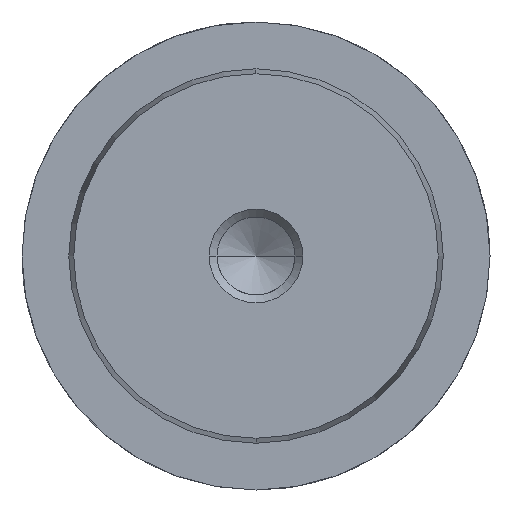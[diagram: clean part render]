
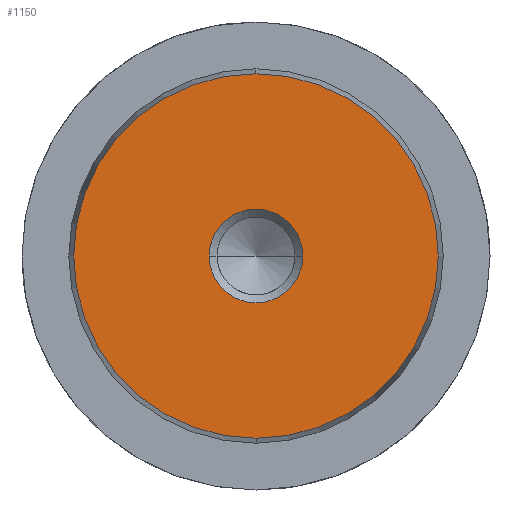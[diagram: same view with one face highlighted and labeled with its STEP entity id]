
A CAD part, left-side view. The second image highlights one B-rep face of the part: STEP entity #1150.
In plain terms, the highlighted planar face has unit normal (-1, 0, 0).
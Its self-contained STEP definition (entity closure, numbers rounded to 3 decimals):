
#1064=CARTESIAN_POINT('Vertex',(0.,0.,-15.578)) ;
#1067=CARTESIAN_POINT('Axis2P3D Location',(0.,0.,0.)) ;
#1071=CARTESIAN_POINT('Vertex',(0.,15.578,0.)) ;
#1074=CARTESIAN_POINT('Axis2P3D Location',(0.,0.,0.)) ;
#1078=CARTESIAN_POINT('Vertex',(0.,0.,15.578)) ;
#1100=CARTESIAN_POINT('Axis2P3D Location',(0.,0.,0.)) ;
#1104=CARTESIAN_POINT('Vertex',(0.,-15.578,0.)) ;
#1107=CARTESIAN_POINT('Axis2P3D Location',(0.,0.,0.)) ;
#1121=CARTESIAN_POINT('Axis2P3D Location',(0.,0.,0.)) ;
#1132=CARTESIAN_POINT('Axis2P3D Location',(0.,0.,0.)) ;
#1136=CARTESIAN_POINT('Vertex',(0.,4.,0.)) ;
#1138=CARTESIAN_POINT('Vertex',(0.,-4.,0.)) ;
#1141=CARTESIAN_POINT('Axis2P3D Location',(0.,0.,0.)) ;
#1068=DIRECTION('Axis2P3D Direction',(1.,0.,-0.)) ;
#1075=DIRECTION('Axis2P3D Direction',(1.,0.,-0.)) ;
#1101=DIRECTION('Axis2P3D Direction',(1.,0.,-0.)) ;
#1108=DIRECTION('Axis2P3D Direction',(1.,0.,-0.)) ;
#1122=DIRECTION('Axis2P3D Direction',(1.,0.,-0.)) ;
#1123=DIRECTION('Axis2P3D XDirection',(-0.,0.,-1.)) ;
#1133=DIRECTION('Axis2P3D Direction',(1.,0.,-0.)) ;
#1142=DIRECTION('Axis2P3D Direction',(1.,0.,-0.)) ;
#1069=AXIS2_PLACEMENT_3D('Circle Axis2P3D',#1067,#1068,$) ;
#1076=AXIS2_PLACEMENT_3D('Circle Axis2P3D',#1074,#1075,$) ;
#1102=AXIS2_PLACEMENT_3D('Circle Axis2P3D',#1100,#1101,$) ;
#1109=AXIS2_PLACEMENT_3D('Circle Axis2P3D',#1107,#1108,$) ;
#1124=AXIS2_PLACEMENT_3D('Plane Axis2P3D',#1121,#1122,#1123) ;
#1134=AXIS2_PLACEMENT_3D('Circle Axis2P3D',#1132,#1133,$) ;
#1143=AXIS2_PLACEMENT_3D('Circle Axis2P3D',#1141,#1142,$) ;
#1127=ORIENTED_EDGE('',*,*,#1073,.F.) ;
#1128=ORIENTED_EDGE('',*,*,#1111,.F.) ;
#1129=ORIENTED_EDGE('',*,*,#1106,.F.) ;
#1130=ORIENTED_EDGE('',*,*,#1080,.F.) ;
#1147=ORIENTED_EDGE('',*,*,#1140,.T.) ;
#1148=ORIENTED_EDGE('',*,*,#1145,.T.) ;
#1149=FACE_BOUND('',#1146,.T.) ;
#1150=ADVANCED_FACE('718-32x125',(#1131,#1149),#1125,.F.) ;
#1070=CIRCLE('generated circle',#1069,15.578) ;
#1077=CIRCLE('generated circle',#1076,15.578) ;
#1103=CIRCLE('generated circle',#1102,15.578) ;
#1110=CIRCLE('generated circle',#1109,15.578) ;
#1135=CIRCLE('generated circle',#1134,4.) ;
#1144=CIRCLE('generated circle',#1143,4.) ;
#1073=EDGE_CURVE('',#1065,#1072,#1070,.T.) ;
#1080=EDGE_CURVE('',#1072,#1079,#1077,.T.) ;
#1106=EDGE_CURVE('',#1079,#1105,#1103,.T.) ;
#1111=EDGE_CURVE('',#1105,#1065,#1110,.T.) ;
#1140=EDGE_CURVE('',#1137,#1139,#1135,.T.) ;
#1145=EDGE_CURVE('',#1139,#1137,#1144,.T.) ;
#1126=EDGE_LOOP('',(#1127,#1128,#1129,#1130)) ;
#1146=EDGE_LOOP('',(#1147,#1148)) ;
#1131=FACE_OUTER_BOUND('',#1126,.T.) ;
#1125=PLANE('Plane',#1124) ;
#1065=VERTEX_POINT('',#1064) ;
#1072=VERTEX_POINT('',#1071) ;
#1079=VERTEX_POINT('',#1078) ;
#1105=VERTEX_POINT('',#1104) ;
#1137=VERTEX_POINT('',#1136) ;
#1139=VERTEX_POINT('',#1138) ;
